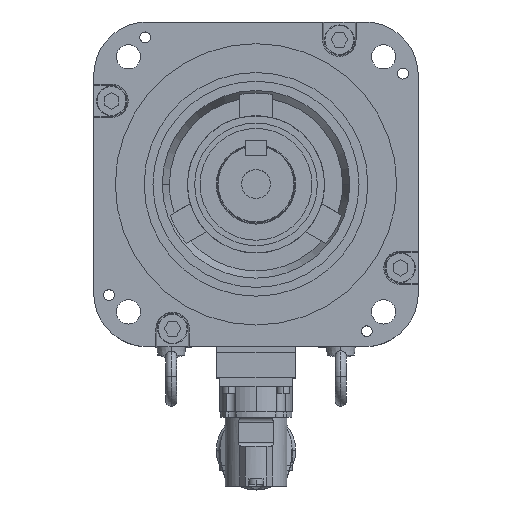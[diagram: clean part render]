
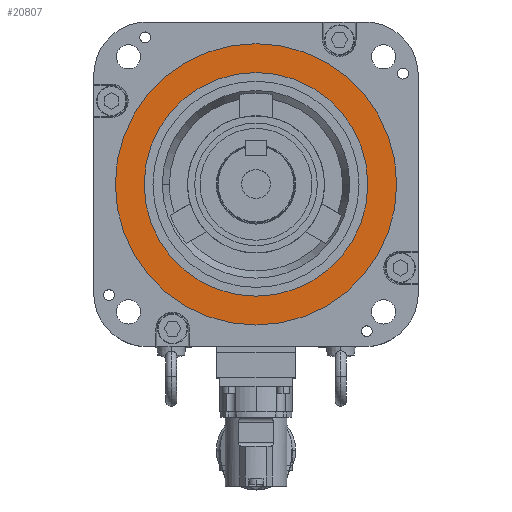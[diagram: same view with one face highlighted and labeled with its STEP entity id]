
A CAD part, top view. The second image highlights one B-rep face of the part: STEP entity #20807.
In plain terms, the highlighted planar face has unit normal (0, 0, 1).
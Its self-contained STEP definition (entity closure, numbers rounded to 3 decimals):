
#20444 = EDGE_LOOP ( 'NONE', ( #20781, #20789 ) ) ;
#20758 = ORIENTED_EDGE ( 'NONE', *, *, #24873, .F. ) ;
#20763 = EDGE_CURVE ( 'NONE', #22943, #24919, #33162, .T. ) ;
#20765 = ORIENTED_EDGE ( 'NONE', *, *, #20763, .F. ) ;
#20781 = ORIENTED_EDGE ( 'NONE', *, *, #20786, .T. ) ;
#20786 = EDGE_CURVE ( 'NONE', #22883, #22909, #33194, .T. ) ;
#20789 = ORIENTED_EDGE ( 'NONE', *, *, #23890, .T. ) ;
#20790 = EDGE_LOOP ( 'NONE', ( #20765, #20758 ) ) ;
#20807 = ADVANCED_FACE ( 'NONE', ( #33215, #33214 ), #33213, .T. ) ;
#22883 = VERTEX_POINT ( 'NONE', #37248 ) ;
#22909 = VERTEX_POINT ( 'NONE', #37291 ) ;
#22943 = VERTEX_POINT ( 'NONE', #37356 ) ;
#23890 = EDGE_CURVE ( 'NONE', #22909, #22883, #37564, .T. ) ;
#24873 = EDGE_CURVE ( 'NONE', #24919, #22943, #37683, .T. ) ;
#24919 = VERTEX_POINT ( 'NONE', #37672 ) ;
#33158 = DIRECTION ( 'NONE',  ( 1., 0., 0. ) ) ;
#33159 = DIRECTION ( 'NONE',  ( 0., 0., 1. ) ) ;
#33160 = CARTESIAN_POINT ( 'NONE',  ( 0., 0., -0.5 ) ) ;
#33161 = AXIS2_PLACEMENT_3D ( 'NONE', #33160, #33159, #33158 ) ;
#33162 = CIRCLE ( 'NONE', #33161, 62. ) ;
#33190 = DIRECTION ( 'NONE',  ( 1., 0., 0. ) ) ;
#33191 = DIRECTION ( 'NONE',  ( 0., 0., 1. ) ) ;
#33192 = CARTESIAN_POINT ( 'NONE',  ( 0., 0., -0.5 ) ) ;
#33193 = AXIS2_PLACEMENT_3D ( 'NONE', #33192, #33191, #33190 ) ;
#33194 = CIRCLE ( 'NONE', #33193, 78. ) ;
#33209 = DIRECTION ( 'NONE',  ( 1., 0., 0. ) ) ;
#33210 = DIRECTION ( 'NONE',  ( 0., 0., 1. ) ) ;
#33211 = CARTESIAN_POINT ( 'NONE',  ( 0., 0., -0.5 ) ) ;
#33212 = AXIS2_PLACEMENT_3D ( 'NONE', #33211, #33210, #33209 ) ;
#33213 = PLANE ( 'NONE',  #33212 ) ;
#33214 = FACE_BOUND ( 'NONE', #20790, .T. ) ;
#33215 = FACE_OUTER_BOUND ( 'NONE', #20444, .T. ) ;
#37248 = CARTESIAN_POINT ( 'NONE',  ( 78., 0., -0.5 ) ) ;
#37291 = CARTESIAN_POINT ( 'NONE',  ( -78., 0., -0.5 ) ) ;
#37356 = CARTESIAN_POINT ( 'NONE',  ( -62., 0., -0.5 ) ) ;
#37560 = DIRECTION ( 'NONE',  ( 1., 0., 0. ) ) ;
#37561 = DIRECTION ( 'NONE',  ( 0., 0., 1. ) ) ;
#37562 = CARTESIAN_POINT ( 'NONE',  ( 0., 0., -0.5 ) ) ;
#37563 = AXIS2_PLACEMENT_3D ( 'NONE', #37562, #37561, #37560 ) ;
#37564 = CIRCLE ( 'NONE', #37563, 78. ) ;
#37672 = CARTESIAN_POINT ( 'NONE',  ( 62., 0., -0.5 ) ) ;
#37679 = DIRECTION ( 'NONE',  ( 1., 0., 0. ) ) ;
#37680 = DIRECTION ( 'NONE',  ( 0., 0., 1. ) ) ;
#37681 = CARTESIAN_POINT ( 'NONE',  ( 0., 0., -0.5 ) ) ;
#37682 = AXIS2_PLACEMENT_3D ( 'NONE', #37681, #37680, #37679 ) ;
#37683 = CIRCLE ( 'NONE', #37682, 62. ) ;
